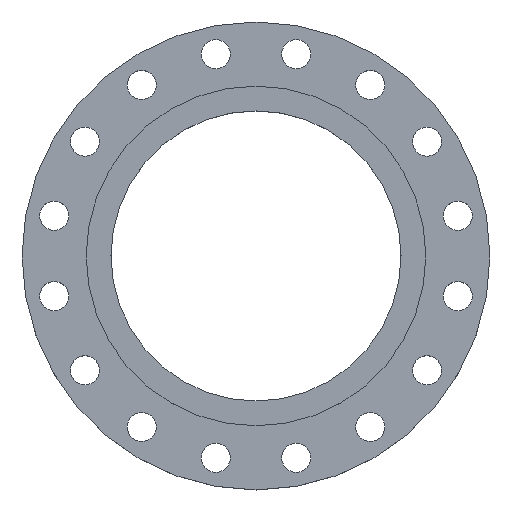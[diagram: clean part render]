
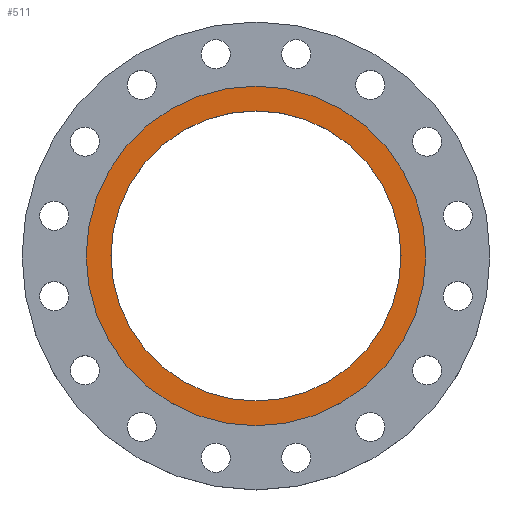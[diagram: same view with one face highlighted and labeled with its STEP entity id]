
A CAD part, top view. The second image highlights one B-rep face of the part: STEP entity #511.
In plain terms, the highlighted planar face has unit normal (0, 0, 1).
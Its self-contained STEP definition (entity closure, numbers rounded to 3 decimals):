
#30 = CIRCLE ( 'NONE', #905, 210.5 ) ;
#107 = EDGE_CURVE ( 'NONE', #1452, #1023, #30, .T. ) ;
#110 = CARTESIAN_POINT ( 'NONE',  ( -179.75, 0., 0. ) ) ;
#111 = CARTESIAN_POINT ( 'NONE',  ( 210.5, 0., 0. ) ) ;
#250 = DIRECTION ( 'NONE',  ( -1., 0., 0. ) ) ;
#252 = DIRECTION ( 'NONE',  ( 0., 0., -1. ) ) ;
#254 = CARTESIAN_POINT ( 'NONE',  ( 0., 0., 0. ) ) ;
#281 = DIRECTION ( 'NONE',  ( -1., 0., 0. ) ) ;
#283 = DIRECTION ( 'NONE',  ( 0., 0., -1. ) ) ;
#284 = CARTESIAN_POINT ( 'NONE',  ( 0., 0., 0. ) ) ;
#436 = DIRECTION ( 'NONE',  ( -1., 0., 0. ) ) ;
#437 = DIRECTION ( 'NONE',  ( 0., 0., -1. ) ) ;
#438 = CARTESIAN_POINT ( 'NONE',  ( 0., 0., 0. ) ) ;
#495 = CARTESIAN_POINT ( 'NONE',  ( -210.5, 0., 0. ) ) ;
#502 = CARTESIAN_POINT ( 'NONE',  ( 179.75, 0., 0. ) ) ;
#511 = ADVANCED_FACE ( 'NONE', ( #663, #662 ), #661, .T. ) ;
#657 = DIRECTION ( 'NONE',  ( 1., 0., 0. ) ) ;
#659 = DIRECTION ( 'NONE',  ( 0., 0., 1. ) ) ;
#660 = CARTESIAN_POINT ( 'NONE',  ( 0., 0., 0. ) ) ;
#661 = PLANE ( 'NONE',  #975 ) ;
#662 = FACE_OUTER_BOUND ( 'NONE', #1455, .T. ) ;
#663 = FACE_BOUND ( 'NONE', #1417, .T. ) ;
#841 = DIRECTION ( 'NONE',  ( -1., 0., 0. ) ) ;
#842 = DIRECTION ( 'NONE',  ( 0., 0., -1. ) ) ;
#843 = CARTESIAN_POINT ( 'NONE',  ( 0., 0., 0. ) ) ;
#850 = CIRCLE ( 'NONE', #854, 179.75 ) ;
#854 = AXIS2_PLACEMENT_3D ( 'NONE', #284, #283, #281 ) ;
#860 = CIRCLE ( 'NONE', #862, 210.5 ) ;
#862 = AXIS2_PLACEMENT_3D ( 'NONE', #254, #252, #250 ) ;
#905 = AXIS2_PLACEMENT_3D ( 'NONE', #843, #842, #841 ) ;
#975 = AXIS2_PLACEMENT_3D ( 'NONE', #660, #659, #657 ) ;
#1010 = VERTEX_POINT ( 'NONE', #502 ) ;
#1023 = VERTEX_POINT ( 'NONE', #495 ) ;
#1102 = AXIS2_PLACEMENT_3D ( 'NONE', #438, #437, #436 ) ;
#1104 = CIRCLE ( 'NONE', #1102, 179.75 ) ;
#1105 = EDGE_CURVE ( 'NONE', #1457, #1010, #1104, .T. ) ;
#1276 = EDGE_CURVE ( 'NONE', #1010, #1457, #850, .T. ) ;
#1290 = EDGE_CURVE ( 'NONE', #1023, #1452, #860, .T. ) ;
#1365 = ORIENTED_EDGE ( 'NONE', *, *, #1105, .T. ) ;
#1366 = ORIENTED_EDGE ( 'NONE', *, *, #1276, .T. ) ;
#1367 = ORIENTED_EDGE ( 'NONE', *, *, #1290, .F. ) ;
#1368 = ORIENTED_EDGE ( 'NONE', *, *, #107, .F. ) ;
#1417 = EDGE_LOOP ( 'NONE', ( #1365, #1366 ) ) ;
#1452 = VERTEX_POINT ( 'NONE', #111 ) ;
#1455 = EDGE_LOOP ( 'NONE', ( #1367, #1368 ) ) ;
#1457 = VERTEX_POINT ( 'NONE', #110 ) ;
